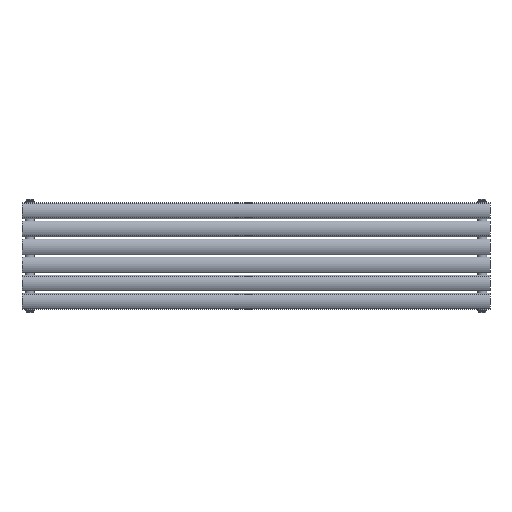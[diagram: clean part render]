
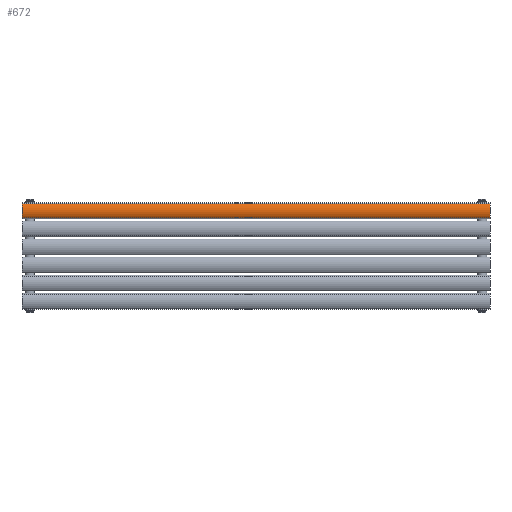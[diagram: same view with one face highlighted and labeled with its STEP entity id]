
A CAD part, top view. The second image highlights one B-rep face of the part: STEP entity #672.
In plain terms, the highlighted cylindrical face has radius 39.5 mm (diameter 79 mm), a partial arc.
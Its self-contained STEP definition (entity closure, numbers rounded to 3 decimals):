
#99=LINE('',#1514,#127);
#100=LINE('',#1517,#128);
#127=VECTOR('',#874,10.);
#128=VECTOR('',#877,10.);
#196=CIRCLE('',#756,39.5);
#199=CIRCLE('',#760,39.5);
#258=FACE_OUTER_BOUND('',#315,.T.);
#315=EDGE_LOOP('',(#544,#545,#546,#547));
#385=VERTEX_POINT('',#1505);
#386=VERTEX_POINT('',#1507);
#388=VERTEX_POINT('',#1513);
#389=VERTEX_POINT('',#1515);
#444=EDGE_CURVE('',#385,#386,#196,.T.);
#447=EDGE_CURVE('',#388,#385,#99,.T.);
#448=EDGE_CURVE('',#389,#388,#199,.T.);
#449=EDGE_CURVE('',#386,#389,#100,.T.);
#544=ORIENTED_EDGE('',*,*,#447,.F.);
#545=ORIENTED_EDGE('',*,*,#448,.F.);
#546=ORIENTED_EDGE('',*,*,#449,.F.);
#547=ORIENTED_EDGE('',*,*,#444,.F.);
#654=CYLINDRICAL_SURFACE('',#759,39.5);
#672=ADVANCED_FACE('',(#258),#654,.T.);
#756=AXIS2_PLACEMENT_3D('',#1508,#866,#867);
#759=AXIS2_PLACEMENT_3D('',#1512,#872,#873);
#760=AXIS2_PLACEMENT_3D('',#1516,#875,#876);
#866=DIRECTION('center_axis',(0.,0.,-1.));
#867=DIRECTION('ref_axis',(-0.552,-0.834,0.));
#872=DIRECTION('center_axis',(0.,0.,1.));
#873=DIRECTION('ref_axis',(-0.552,-0.834,0.));
#874=DIRECTION('',(0.,0.,-1.));
#875=DIRECTION('center_axis',(0.,0.,1.));
#876=DIRECTION('ref_axis',(-0.552,-0.834,0.));
#877=DIRECTION('',(0.,0.,1.));
#1505=CARTESIAN_POINT('',(21.816,-18.429,-750.));
#1507=CARTESIAN_POINT('',(-21.816,-18.429,-750.));
#1508=CARTESIAN_POINT('Origin',(0.,14.5,-750.));
#1512=CARTESIAN_POINT('Origin',(0.,14.5,0.));
#1513=CARTESIAN_POINT('',(21.816,-18.429,750.));
#1514=CARTESIAN_POINT('',(21.816,-18.429,0.));
#1515=CARTESIAN_POINT('',(-21.816,-18.429,750.));
#1516=CARTESIAN_POINT('Origin',(0.,14.5,750.));
#1517=CARTESIAN_POINT('',(-21.816,-18.429,0.));
